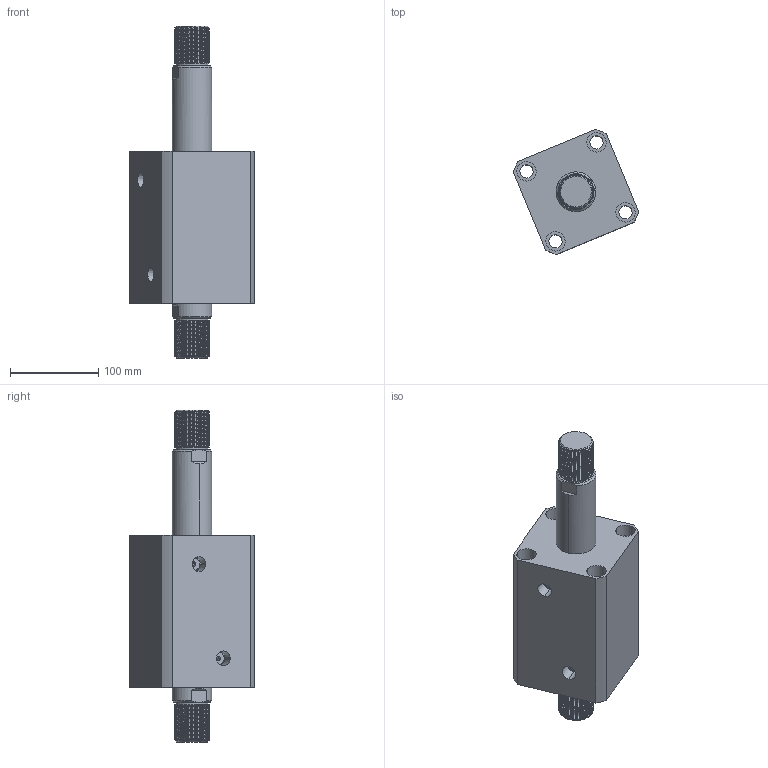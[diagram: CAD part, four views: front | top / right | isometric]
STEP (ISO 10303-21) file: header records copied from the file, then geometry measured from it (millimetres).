
FILE_DESCRIPTION (( 'STEP AP214' ), '1' );
FILE_NAME ('chtb-sw80x80w_asm.STEP', '2018-05-28T02:08:43', ( 'Windows' ), ( 'Microsoft' ), 'SwSTEP 2.0', 'SolidWorks 2015', '' );
FILE_SCHEMA (( 'AUTOMOTIVE_DESIGN' ));
Length unit declared in the file: millimetre
Products named in the file (4): CHTB-SW80X80WHSG; CHTB-SW80X80NBT; CHTB-SD80QG; chtb-sw80x80w_asm
Assembly tree (3 placements, depth 2):
  chtb-sw80x80w_asm
    CHTB-SD80QG
    CHTB-SW80X80NBT
    CHTB-SW80X80WHSG
Bounding box: 142.06 x 142.06 x 377 mm (x, y, z)
Volume: 2060268.8 mm3; surface area: 274627.3 mm2
Topology: 3 solids, 3 shells, 330 faces, 908 edges, 607 vertices
Faces by surface type: cylinder 221, plane 48, cone 25, bspline 18, torus 18
Entity records: 25864 total; most frequent: CARTESIAN_POINT 18238, ORIENTED_EDGE 1808, DIRECTION 1338, EDGE_CURVE 904, VERTEX_POINT 607, AXIS2_PLACEMENT_3D 532, EDGE_LOOP 373, ADVANCED_FACE 330
